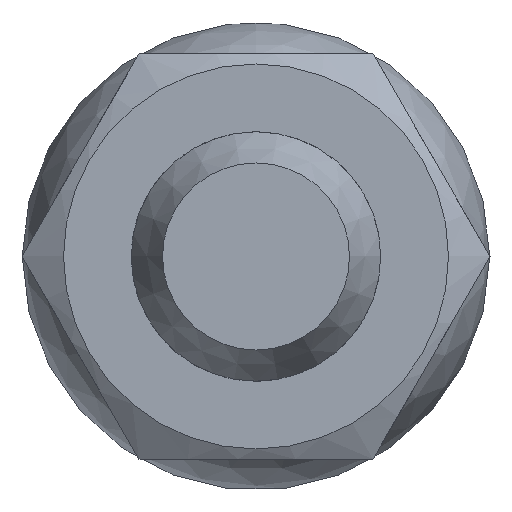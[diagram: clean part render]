
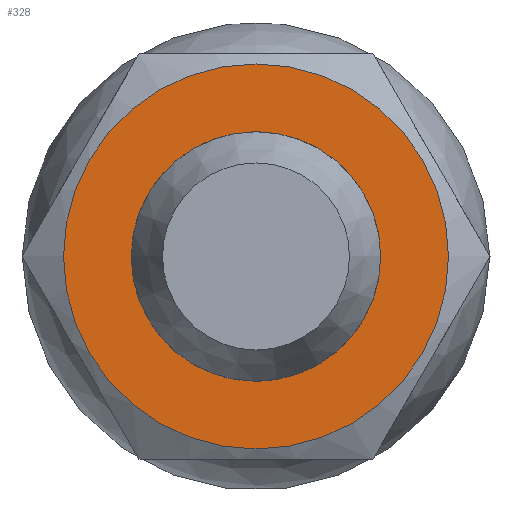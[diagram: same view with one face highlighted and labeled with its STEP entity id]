
A CAD part, left-side view. The second image highlights one B-rep face of the part: STEP entity #328.
In plain terms, the highlighted planar face has unit normal (-1, 0, 0) as drawn and (0, 0, 1) by its records, which use the part's own axes.
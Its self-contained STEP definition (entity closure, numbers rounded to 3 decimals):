
#328=ADVANCED_FACE('',(#588,#590),#592,.T.);
#588=FACE_BOUND('',#589,.T.);
#589=EDGE_LOOP('',(#745));
#590=FACE_BOUND('',#591,.T.);
#591=EDGE_LOOP('',(#746));
#592=PLANE('',#593);
#593=AXIS2_PLACEMENT_3D('',#594,#595,#596);
#594=CARTESIAN_POINT('',(0.,0.,6.8));
#595=DIRECTION('',(0.,0.,1.));
#596=DIRECTION('',(1.,0.,0.));
#745=ORIENTED_EDGE('',*,*,#817,.T.);
#746=ORIENTED_EDGE('',*,*,#818,.T.);
#817=EDGE_CURVE('',#933,#933,#934,.F.);
#818=EDGE_CURVE('',#935,#935,#936,.F.);
#933=VERTEX_POINT('',#2049);
#934=CIRCLE('',#2050,6.175);
#935=VERTEX_POINT('',#2054);
#936=CIRCLE('',#2055,4.);
#2049=CARTESIAN_POINT('',(0.,6.175,6.8));
#2050=AXIS2_PLACEMENT_3D('',#2051,#2052,#2053);
#2051=CARTESIAN_POINT('',(0.,0.,6.8));
#2052=DIRECTION('',(0.,0.,-1.));
#2053=DIRECTION('',(0.,1.,0.));
#2054=CARTESIAN_POINT('',(4.,0.,6.8));
#2055=AXIS2_PLACEMENT_3D('',#2056,#2057,#2058);
#2056=CARTESIAN_POINT('',(0.,0.,6.8));
#2057=DIRECTION('',(0.,0.,1.));
#2058=DIRECTION('',(1.,0.,0.));
